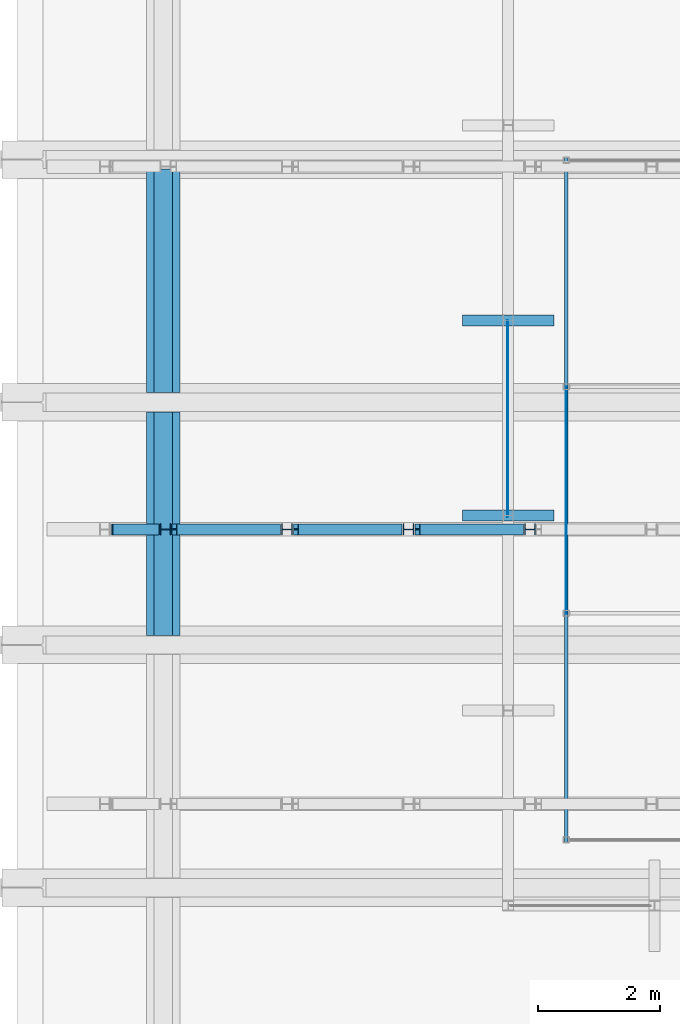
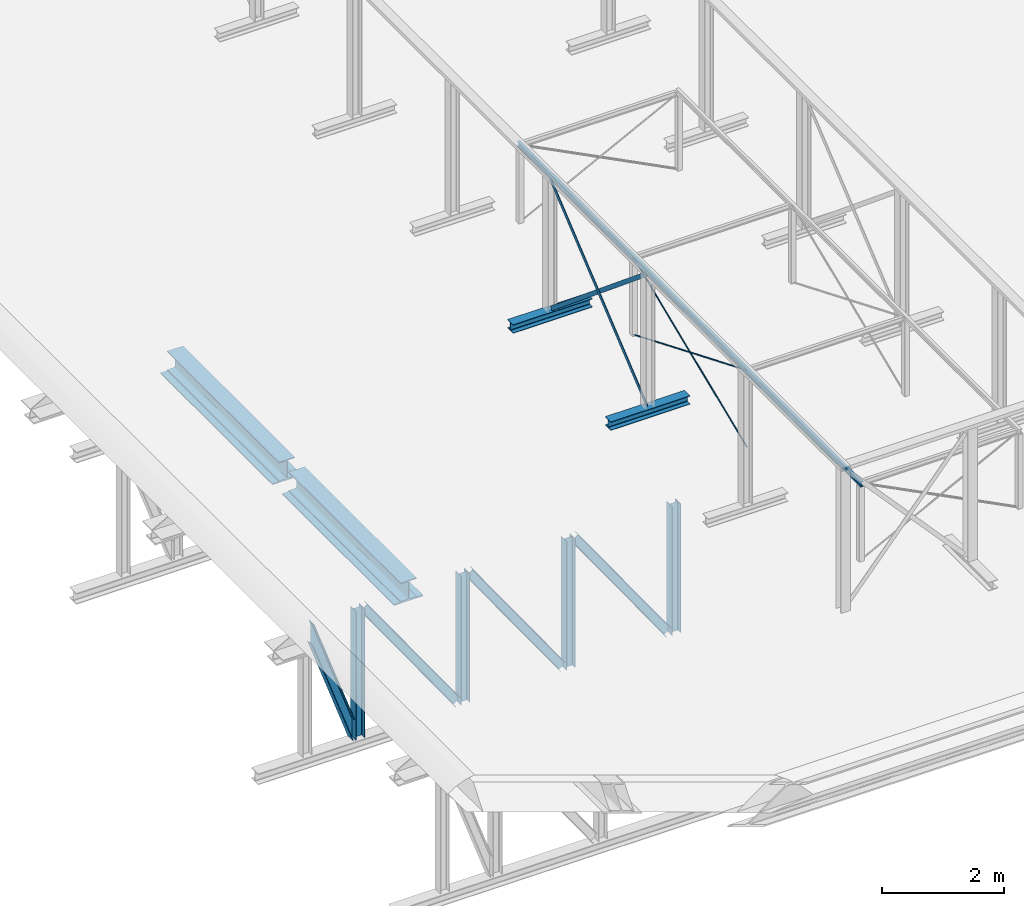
# One storey, part 10 of 50: 17 beams.
"""IFC2X3 building model written with IfcOpenShell, lengths in millimetres."""

from ifc_helpers import new_model, entity, si_unit, converted_unit, derived_unit, direction, frame, frame_2d, origin, origin_2d_with_axis, place, context, subcontext, project, spatial, polyline, circle_curve, parameter, trimmed, segment, composite_curve, rectangle, circle, i_section, outline, extrude, clip, halfspace, source, transform, mapped, material, material_list, type_object, type_shapes, element, save


model = new_model("IFC2X3")

# Units and contexts
model_context = context("Model", 3, precision=0.01, world=origin(), true_north=direction((6.12303176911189e-17, 1.0)))
body_context = subcontext(model_context, "Body", "Model", "MODEL_VIEW")
ifc_project = project(units=[si_unit("LENGTHUNIT", "METRE", prefix="MILLI"), si_unit("AREAUNIT", "SQUARE_METRE", prefix="MILLI"), si_unit("VOLUMEUNIT", "CUBIC_METRE"), converted_unit("PLANEANGLEUNIT", "DEGREE", entity("IfcRatioMeasure", 0.0174532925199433), si_unit("PLANEANGLEUNIT", "RADIAN"), dimensions=[0, 0, 0, 0, 0, 0, 0]), si_unit("MASSUNIT", "GRAM", prefix="KILO"), derived_unit("MASSDENSITYUNIT", [(si_unit("MASSUNIT", "GRAM", prefix="KILO"), 1), (si_unit("LENGTHUNIT", "METRE"), -3)]), derived_unit("MOMENTOFINERTIAUNIT", [(si_unit("LENGTHUNIT", "METRE"), 4)]), si_unit("TIMEUNIT", "SECOND"), si_unit("FREQUENCYUNIT", "HERTZ"), si_unit("THERMODYNAMICTEMPERATUREUNIT", "DEGREE_CELSIUS"), derived_unit("THERMALTRANSMITTANCEUNIT", [(si_unit("MASSUNIT", "GRAM", prefix="KILO"), 1), (si_unit("THERMODYNAMICTEMPERATUREUNIT", "KELVIN"), -1), (si_unit("TIMEUNIT", "SECOND"), -3)]), derived_unit("VOLUMETRICFLOWRATEUNIT", [(si_unit("LENGTHUNIT", "METRE"), 3), (si_unit("TIMEUNIT", "SECOND"), -1)]), si_unit("ELECTRICCURRENTUNIT", "AMPERE"), si_unit("ELECTRICVOLTAGEUNIT", "VOLT"), si_unit("POWERUNIT", "WATT"), si_unit("FORCEUNIT", "NEWTON", prefix="KILO"), si_unit("ILLUMINANCEUNIT", "LUX"), si_unit("LUMINOUSFLUXUNIT", "LUMEN"), si_unit("LUMINOUSINTENSITYUNIT", "CANDELA"), derived_unit("USERDEFINED", [(si_unit("MASSUNIT", "GRAM", prefix="KILO"), -1), (si_unit("LENGTHUNIT", "METRE"), -2), (si_unit("TIMEUNIT", "SECOND"), 3), (si_unit("LUMINOUSFLUXUNIT", "LUMEN"), 1)]), derived_unit("LINEARVELOCITYUNIT", [(si_unit("LENGTHUNIT", "METRE"), 1), (si_unit("TIMEUNIT", "SECOND"), -1)]), si_unit("PRESSUREUNIT", "PASCAL"), derived_unit("USERDEFINED", [(si_unit("LENGTHUNIT", "METRE"), -2), (si_unit("MASSUNIT", "GRAM", prefix="KILO"), 1), (si_unit("TIMEUNIT", "SECOND"), -2)]), derived_unit("LINEARFORCEUNIT", [(si_unit("MASSUNIT", "GRAM", prefix="KILO"), 1), (si_unit("LENGTHUNIT", "METRE"), 1), (si_unit("TIMEUNIT", "SECOND"), -2), (si_unit("LENGTHUNIT", "METRE"), -1)]), derived_unit("PLANARFORCEUNIT", [(si_unit("MASSUNIT", "GRAM", prefix="KILO"), 1), (si_unit("LENGTHUNIT", "METRE"), 1), (si_unit("TIMEUNIT", "SECOND"), -2), (si_unit("LENGTHUNIT", "METRE"), -2)])], contexts=[model_context])

# Site, building, storey
site_placement = place(None, origin())
site = spatial("IfcSite", under=ifc_project, at=site_placement, Name="Theater aan de Parade", CompositionType="ELEMENT")
building_placement = place(site_placement, origin())
building = spatial("IfcBuilding", under=site, at=building_placement, Name="Theater aan de Parade", CompositionType="ELEMENT")
storey_placement = place(building_placement, frame((0.0, 0.0, 15820.0)))
storey = spatial("IfcBuildingStorey", under=building, at=storey_placement, Name="04 vierde verdieping", CompositionType="ELEMENT", Elevation=15820.0)

# Beams
ifc_material_1 = material(Name="00_PBT_MAT_staal_S355")
beam_type_1 = type_object("IfcBeamType", Name="28_PBT_SF_staal_H-profiel:S355_HE180A", PredefinedType="NOTDEFINED")
beam_1_placement = place(storey_placement, frame((18135.8569884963, 23568.2922985, -4340.0), z_axis=(1.0, 0.0, 0.0), x_axis=(0.0, 0.0, 1.0)))
element("IfcBeam", 1, at=beam_1_placement, inside=storey, type_object=beam_type_1, material=ifc_material_1, Name="28_PBT_SF_staal_H-profiel:S355_HE180A", ObjectType="28_PBT_SF_staal_H-profiel:S355_HE180A", context=body_context, shape_type="SweptSolid", body=[
    extrude(i_section(OverallWidth=179.999999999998, OverallDepth=171.0, WebThickness=6.00000000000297, FlangeThickness=9.49999999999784, FilletRadius=15.0000000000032, at=frame_2d((2.16715534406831e-12, 2.16715534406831e-12), x_axis=(0.0, 1.0))), frame((122.7, 0.0, 0.0), z_axis=(1.0, 0.0, 0.0), x_axis=(0.0, 0.0, -1.0)), (0.0, 0.0, 1.0), 2574.60000000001),
])
beam_2_placement = place(storey_placement, frame((20127.8569884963, 23568.2922984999, -4340.0), z_axis=(1.0, 0.0, 0.0), x_axis=(0.0, 0.0, 1.0)))
element("IfcBeam", 2, at=beam_2_placement, inside=storey, type_object=beam_type_1, material=ifc_material_1, Name="28_PBT_SF_staal_H-profiel:S355_HE180A", ObjectType="28_PBT_SF_staal_H-profiel:S355_HE180A", context=body_context, shape_type="SweptSolid", body=[
    extrude(i_section(OverallWidth=179.999999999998, OverallDepth=171.0, WebThickness=6.00000000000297, FlangeThickness=9.49999999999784, FilletRadius=15.0000000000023, at=frame_2d((-2.16715534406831e-12, -2.16715534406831e-12), x_axis=(0.0, 1.0))), frame((122.700000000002, 0.0, 0.0), z_axis=(1.0, 0.0, 0.0), x_axis=(0.0, 0.0, -1.0)), (0.0, 0.0, 1.0), 2574.60000000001),
])
beam_3_placement = place(storey_placement, frame((22119.8569884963, 23568.2922984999, -4340.0), z_axis=(1.0, 0.0, 0.0), x_axis=(0.0, 0.0, 1.0)))
element("IfcBeam", 3, at=beam_3_placement, inside=storey, type_object=beam_type_1, material=ifc_material_1, Name="28_PBT_SF_staal_H-profiel:S355_HE180A", ObjectType="28_PBT_SF_staal_H-profiel:S355_HE180A", context=body_context, shape_type="SweptSolid", body=[
    extrude(i_section(OverallWidth=179.999999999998, OverallDepth=171.0, WebThickness=6.00000000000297, FlangeThickness=9.49999999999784, FilletRadius=15.0000000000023, at=frame_2d((2.16715534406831e-12, -6.49436060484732e-12), x_axis=(0.0, 1.0))), frame((122.699999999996, 0.0, 0.0), z_axis=(1.0, 0.0, 0.0), x_axis=(0.0, 0.0, -1.0)), (0.0, 0.0, 1.0), 2574.60000000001),
])
beam_4_placement = place(storey_placement, frame((24111.8569884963, 23568.2922984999, -4340.0), z_axis=(1.0, 0.0, 0.0), x_axis=(0.0, 0.0, 1.0)))
element("IfcBeam", 4, at=beam_4_placement, inside=storey, type_object=beam_type_1, material=ifc_material_1, Name="28_PBT_SF_staal_H-profiel:S355_HE180A", ObjectType="28_PBT_SF_staal_H-profiel:S355_HE180A", context=body_context, shape_type="SweptSolid", body=[
    extrude(i_section(OverallWidth=179.999999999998, OverallDepth=171.0, WebThickness=6.00000000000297, FlangeThickness=9.49999999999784, FilletRadius=15.0000000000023, at=frame_2d((2.16715534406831e-12, -2.16715534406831e-12), x_axis=(0.0, 1.0))), frame((122.7, 0.0, 0.0), z_axis=(1.0, 0.0, 0.0), x_axis=(0.0, 0.0, -1.0)), (0.0, 0.0, 1.0), 2574.60000000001),
])
beam_5_placement = place(storey_placement, frame((17139.8569884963, 23568.2922985, -1520.0), z_axis=(0.942916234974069, 0.0, 0.33302998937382), x_axis=(0.33302998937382, 0.0, -0.942916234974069)))
element("IfcBeam", 5, at=beam_5_placement, inside=storey, type_object=beam_type_1, material=ifc_material_1, Name="28_PBT_SF_staal_H-profiel:S355_HE180A", ObjectType="28_PBT_SF_staal_H-profiel:S355_HE180A", context=body_context, shape_type="Clipping", body=[
    clip(clip(extrude(outline(composite_curve([segment(polyline([(76.0, -90.0), (85.5000000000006, -90.0)]), True, "CONTINUOUS"), segment(polyline([(85.5000000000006, -90.0), (85.4999999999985, 90.0)]), True, "CONTINUOUS"), segment(polyline([(85.5000000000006, 90.0), (76.0, 90.0)]), True, "CONTINUOUS"), segment(polyline([(76.0, 90.0), (76.0, 18.0)]), True, "CONTINUOUS"), segment(trimmed(circle_curve(frame_2d((61.0, 18.0), x_axis=(1.0, 0.0)), 14.9999999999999), [parameter(270.0)], [parameter(0.0)], True, "PARAMETER"), False, "CONTINUOUS"), segment(polyline([(61.0, 3.0), (-61.0, 3.0)]), True, "CONTINUOUS"), segment(trimmed(circle_curve(frame_2d((-61.0, 18.0), x_axis=(0.0, -1.0)), 15.0000000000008), [parameter(270.0)], [parameter(0.0)], True, "PARAMETER"), False, "CONTINUOUS"), segment(polyline([(-76.0, 18.0), (-76.0, 90.0)]), True, "CONTINUOUS"), segment(polyline([(-76.0, 90.0), (-85.4999999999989, 90.0)]), True, "CONTINUOUS"), segment(polyline([(-85.4999999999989, 90.0), (-85.4999999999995, -90.0)]), True, "CONTINUOUS"), segment(polyline([(-85.4999999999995, -90.0), (-76.0, -90.0)]), True, "CONTINUOUS"), segment(polyline([(-76.0, -90.0), (-76.0, -18.0)]), True, "CONTINUOUS"), segment(trimmed(circle_curve(frame_2d((-61.0, -18.0), x_axis=(-1.0, 0.0)), 15.0), [parameter(270.0)], [parameter(0.0)], True, "PARAMETER"), False, "CONTINUOUS"), segment(polyline([(-61.0, -3.0), (61.0, -3.0)]), True, "CONTINUOUS"), segment(trimmed(circle_curve(frame_2d((61.0, -18.0), x_axis=(0.0, 1.0)), 15.000000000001), [parameter(270.0)], [parameter(0.0)], True, "PARAMETER"), False, "CONTINUOUS"), segment(polyline([(76.0, -18.0), (76.0, -90.0)]), True, "CONTINUOUS")], self_intersect=False)), frame((159.557227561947, 0.0, 0.0), z_axis=(1.0, 0.0, 0.0), x_axis=(0.0, 0.0, -1.0)), (0.0, 0.0, 1.0), 2671.60719691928), halfspace(frame((2597.32094917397, 110.0, -805.464727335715), z_axis=(-0.33302998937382, 0.0, -0.942916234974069), x_axis=(-0.942916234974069, 0.0, 0.33302998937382)), False)), halfspace(frame((2858.74949083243, -110.0, -65.2754828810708), z_axis=(0.33302998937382, 0.0, 0.942916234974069), x_axis=(-0.942916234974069, 0.0, 0.33302998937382)), False)),
])
beam_6_placement = place(storey_placement, frame((18135.8569884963, 23568.2922985, -1520.0), z_axis=(0.816775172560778, 0.0, 0.576956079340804), x_axis=(0.576956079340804, 0.0, -0.816775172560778)))
element("IfcBeam", 6, at=beam_6_placement, inside=storey, type_object=beam_type_1, material=ifc_material_1, Name="28_PBT_SF_staal_H-profiel:S355_HE180A", ObjectType="28_PBT_SF_staal_H-profiel:S355_HE180A", context=body_context, shape_type="Clipping", body=[
    clip(clip(extrude(outline(composite_curve([segment(polyline([(76.0, -90.0), (85.5000000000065, -90.0)]), True, "CONTINUOUS"), segment(polyline([(85.5000000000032, -90.0), (85.5000000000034, 90.0)]), True, "CONTINUOUS"), segment(polyline([(85.5000000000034, 90.0), (76.0, 90.0)]), True, "CONTINUOUS"), segment(polyline([(76.0, 90.0), (76.0, 18.0)]), True, "CONTINUOUS"), segment(trimmed(circle_curve(frame_2d((61.0, 18.0), x_axis=(1.0, 0.0)), 15.0000000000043), [parameter(270.000000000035)], [parameter(0.0)], True, "PARAMETER"), False, "CONTINUOUS"), segment(polyline([(61.0, 3.0), (-61.0, 3.0)]), True, "CONTINUOUS"), segment(trimmed(circle_curve(frame_2d((-61.0, 18.0), x_axis=(0.0, -1.0)), 15.0000000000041), [parameter(270.000000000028)], [parameter(0.0)], True, "PARAMETER"), False, "CONTINUOUS"), segment(polyline([(-76.0, 18.0), (-76.0, 90.0)]), True, "CONTINUOUS"), segment(polyline([(-76.0, 90.0), (-85.4999999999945, 90.0)]), True, "CONTINUOUS"), segment(polyline([(-85.4999999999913, 90.0), (-85.4999999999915, -90.0)]), True, "CONTINUOUS"), segment(polyline([(-85.4999999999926, -90.0), (-76.0, -90.0)]), True, "CONTINUOUS"), segment(polyline([(-76.0, -90.0), (-76.0, -18.0)]), True, "CONTINUOUS"), segment(trimmed(circle_curve(frame_2d((-61.0, -18.0), x_axis=(-1.0, 0.0)), 15.0000000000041), [parameter(270.000000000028)], [parameter(0.0)], True, "PARAMETER"), False, "CONTINUOUS"), segment(polyline([(-61.0, -3.0), (61.0, -3.0)]), True, "CONTINUOUS"), segment(trimmed(circle_curve(frame_2d((61.0, -18.0), x_axis=(0.0, 1.0)), 15.0000000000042), [parameter(270.000000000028)], [parameter(0.0)], True, "PARAMETER"), False, "CONTINUOUS"), segment(polyline([(76.0, -18.0), (76.0, -90.0)]), True, "CONTINUOUS")], self_intersect=False)), frame((207.771728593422, 0.0, 0.0), z_axis=(1.0, 0.0, 0.0), x_axis=(0.0, 0.0, -1.0)), (0.0, 0.0, 1.0), 3037.0590394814), halfspace(frame((2280.29204276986, 110.0, -1481.5929736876), z_axis=(-0.576956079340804, 0.0, -0.816775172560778), x_axis=(-0.816775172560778, 0.0, 0.576956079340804)), False)), halfspace(frame((3307.85082007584, -110.0, -26.9163913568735), z_axis=(0.576956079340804, 0.0, 0.816775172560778), x_axis=(-0.816775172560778, 0.0, 0.576956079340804)), False)),
])
beam_7_placement = place(storey_placement, frame((20127.8569884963, 23568.2922984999, -1520.0), z_axis=(0.816775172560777, 0.0, 0.576956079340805), x_axis=(0.576956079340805, 0.0, -0.816775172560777)))
element("IfcBeam", 7, at=beam_7_placement, inside=storey, type_object=beam_type_1, material=ifc_material_1, Name="28_PBT_SF_staal_H-profiel:S355_HE180A", ObjectType="28_PBT_SF_staal_H-profiel:S355_HE180A", context=body_context, shape_type="Clipping", body=[
    clip(clip(extrude(outline(composite_curve([segment(polyline([(76.0, -90.0), (85.5000000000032, -90.0)]), True, "CONTINUOUS"), segment(polyline([(85.5, -90.0), (85.5000000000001, 90.0)]), True, "CONTINUOUS"), segment(polyline([(85.5000000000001, 90.0), (76.0, 90.0)]), True, "CONTINUOUS"), segment(polyline([(76.0, 90.0), (76.0, 18.0)]), True, "CONTINUOUS"), segment(trimmed(circle_curve(frame_2d((61.0, 18.0), x_axis=(1.0, 0.0)), 14.9999999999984), [parameter(269.999999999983)], [parameter(0.0)], True, "PARAMETER"), False, "CONTINUOUS"), segment(polyline([(61.0, 3.0), (-61.0, 3.0)]), True, "CONTINUOUS"), segment(trimmed(circle_curve(frame_2d((-61.0, 18.0), x_axis=(0.0, -1.0)), 14.9999999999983), [parameter(269.999999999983)], [parameter(0.0)], True, "PARAMETER"), False, "CONTINUOUS"), segment(polyline([(-76.0, 18.0), (-76.0, 90.0)]), True, "CONTINUOUS"), segment(polyline([(-76.0, 90.0), (-85.4999999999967, 90.0)]), True, "CONTINUOUS"), segment(polyline([(-85.4999999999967, 90.0), (-85.4999999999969, -90.0)]), True, "CONTINUOUS"), segment(polyline([(-85.4999999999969, -90.0), (-76.0, -90.0)]), True, "CONTINUOUS"), segment(polyline([(-76.0, -90.0), (-76.0, -18.0)]), True, "CONTINUOUS"), segment(trimmed(circle_curve(frame_2d((-61.0, -18.0), x_axis=(-1.0, 0.0)), 14.9999999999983), [parameter(269.999999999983)], [parameter(0.0)], True, "PARAMETER"), False, "CONTINUOUS"), segment(polyline([(-61.0, -3.0), (61.0, -3.0)]), True, "CONTINUOUS"), segment(trimmed(circle_curve(frame_2d((61.0, -18.0), x_axis=(0.0, 1.0)), 14.9999999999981), [parameter(269.999999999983)], [parameter(0.0)], True, "PARAMETER"), False, "CONTINUOUS"), segment(polyline([(76.0, -18.0), (76.0, -90.0)]), True, "CONTINUOUS")], self_intersect=False)), frame((207.771728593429, 0.0, 0.0), z_axis=(1.0, 0.0, 0.0), x_axis=(0.0, 0.0, -1.0)), (0.0, 0.0, 1.0), 3037.0590394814), halfspace(frame((2280.29204276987, 110.0, -1481.59297368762), z_axis=(-0.576956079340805, 0.0, -0.816775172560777), x_axis=(-0.816775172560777, 0.0, 0.576956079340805)), False)), halfspace(frame((3307.85082007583, -110.0, -26.9163913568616), z_axis=(0.576956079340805, 0.0, 0.816775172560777), x_axis=(-0.816775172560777, 0.0, 0.576956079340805)), False)),
])
beam_8_placement = place(storey_placement, frame((22119.8569884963, 23568.2922984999, -1520.0), z_axis=(0.816775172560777, 0.0, 0.576956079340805), x_axis=(0.576956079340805, 0.0, -0.816775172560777)))
element("IfcBeam", 8, at=beam_8_placement, inside=storey, type_object=beam_type_1, material=ifc_material_1, Name="28_PBT_SF_staal_H-profiel:S355_HE180A", ObjectType="28_PBT_SF_staal_H-profiel:S355_HE180A", context=body_context, shape_type="Clipping", body=[
    clip(clip(extrude(outline(composite_curve([segment(polyline([(76.0, -90.0), (85.5000000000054, -90.0)]), True, "CONTINUOUS"), segment(polyline([(85.5, -90.0), (85.5000000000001, 90.0)]), True, "CONTINUOUS"), segment(polyline([(85.5000000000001, 90.0), (76.0, 90.0)]), True, "CONTINUOUS"), segment(polyline([(76.0, 90.0), (76.0, 18.0)]), True, "CONTINUOUS"), segment(trimmed(circle_curve(frame_2d((61.0, 18.0), x_axis=(1.0, 0.0)), 14.9999999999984), [parameter(269.999999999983)], [parameter(0.0)], True, "PARAMETER"), False, "CONTINUOUS"), segment(polyline([(61.0, 3.0), (-61.0, 3.0)]), True, "CONTINUOUS"), segment(trimmed(circle_curve(frame_2d((-61.0, 18.0), x_axis=(0.0, -1.0)), 14.9999999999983), [parameter(269.999999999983)], [parameter(0.0)], True, "PARAMETER"), False, "CONTINUOUS"), segment(polyline([(-76.0, 18.0), (-76.0, 90.0)]), True, "CONTINUOUS"), segment(polyline([(-76.0, 90.0), (-85.4999999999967, 90.0)]), True, "CONTINUOUS"), segment(polyline([(-85.4999999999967, 90.0), (-85.4999999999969, -90.0)]), True, "CONTINUOUS"), segment(polyline([(-85.4999999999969, -90.0), (-76.0, -90.0)]), True, "CONTINUOUS"), segment(polyline([(-76.0, -90.0), (-76.0, -18.0)]), True, "CONTINUOUS"), segment(trimmed(circle_curve(frame_2d((-61.0, -18.0), x_axis=(-1.0, 0.0)), 14.9999999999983), [parameter(269.999999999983)], [parameter(0.0)], True, "PARAMETER"), False, "CONTINUOUS"), segment(polyline([(-61.0, -3.0), (61.0, -3.0)]), True, "CONTINUOUS"), segment(trimmed(circle_curve(frame_2d((61.0, -18.0), x_axis=(0.0, 1.0)), 14.9999999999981), [parameter(269.999999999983)], [parameter(0.0)], True, "PARAMETER"), False, "CONTINUOUS"), segment(polyline([(76.0, -18.0), (76.0, -90.0)]), True, "CONTINUOUS")], self_intersect=False)), frame((207.771728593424, 0.0, 0.0), z_axis=(1.0, 0.0, 0.0), x_axis=(0.0, 0.0, -1.0)), (0.0, 0.0, 1.0), 3037.0590394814), halfspace(frame((2280.29204276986, 110.0, -1481.59297368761), z_axis=(-0.576956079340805, 0.0, -0.816775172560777), x_axis=(-0.816775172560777, 0.0, 0.576956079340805)), False)), halfspace(frame((3307.85082007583, -110.0, -26.9163913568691), z_axis=(0.576956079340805, 0.0, 0.816775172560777), x_axis=(-0.816775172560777, 0.0, 0.576956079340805)), False)),
])
beam_9_placement = place(storey_placement, frame((24503.8569986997, 23798.8337248, 0.0), z_axis=(0.0, 0.0, 1.0), x_axis=(-1.0, 0.0, 0.0)))
element("IfcBeam", 9, at=beam_9_placement, inside=storey, type_object=beam_type_1, material=ifc_material_1, Name="28_PBT_SF_staal_H-profiel:S355_HE180A", ObjectType="28_PBT_SF_staal_H-profiel:S355_HE180A", context=body_context, shape_type="SweptSolid", body=[
    extrude(outline(composite_curve([segment(polyline([(76.0, -90.0), (85.5000000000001, -90.0)]), True, "CONTINUOUS"), segment(polyline([(85.5000000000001, -90.0), (85.5000000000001, 90.0)]), True, "CONTINUOUS"), segment(polyline([(85.5000000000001, 90.0), (76.0, 90.0)]), True, "CONTINUOUS"), segment(polyline([(76.0, 90.0), (76.0, 18.0)]), True, "CONTINUOUS"), segment(trimmed(circle_curve(frame_2d((61.0, 18.0), x_axis=(1.0, 0.0)), 15.0000000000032), [parameter(270.000000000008)], [parameter(0.0)], True, "PARAMETER"), False, "CONTINUOUS"), segment(polyline([(61.0, 3.0), (-61.0, 3.0)]), True, "CONTINUOUS"), segment(trimmed(circle_curve(frame_2d((-61.0, 18.0), x_axis=(0.0, -1.0)), 15.0000000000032), [parameter(270.000000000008)], [parameter(0.0)], True, "PARAMETER"), False, "CONTINUOUS"), segment(polyline([(-76.0, 18.0), (-76.0, 90.0)]), True, "CONTINUOUS"), segment(polyline([(-76.0, 90.0), (-85.5000000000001, 90.0)]), True, "CONTINUOUS"), segment(polyline([(-85.5000000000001, 90.0), (-85.5000000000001, -90.0)]), True, "CONTINUOUS"), segment(polyline([(-85.4999999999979, -90.0), (-76.0, -90.0)]), True, "CONTINUOUS"), segment(polyline([(-76.0, -90.0), (-76.0, -18.0)]), True, "CONTINUOUS"), segment(trimmed(circle_curve(frame_2d((-61.0, -18.0), x_axis=(-1.0, 0.0)), 15.0000000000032), [parameter(270.000000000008)], [parameter(0.0)], True, "PARAMETER"), False, "CONTINUOUS"), segment(polyline([(-61.0, -3.0), (61.0, -3.0)]), True, "CONTINUOUS"), segment(trimmed(circle_curve(frame_2d((61.0, -18.0), x_axis=(0.0, 1.0)), 15.0000000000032), [parameter(270.000000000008)], [parameter(0.0)], True, "PARAMETER"), False, "CONTINUOUS"), segment(polyline([(76.0, -18.0), (76.0, -90.0)]), True, "CONTINUOUS")], self_intersect=False)), frame((0.0, 0.0, 184.499999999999), z_axis=(1.0, 0.0, 0.0), x_axis=(0.0, 0.0, -1.0)), (0.0, 0.0, 1.0), 1500.00000000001),
])
beam_10_placement = place(storey_placement, frame((24503.8569986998, 26998.8337248, 0.0), z_axis=(0.0, 0.0, 1.0), x_axis=(-1.0, 0.0, 0.0)))
element("IfcBeam", 10, at=beam_10_placement, inside=storey, type_object=beam_type_1, material=ifc_material_1, Name="28_PBT_SF_staal_H-profiel:S355_HE180A", ObjectType="28_PBT_SF_staal_H-profiel:S355_HE180A", context=body_context, shape_type="SweptSolid", body=[
    extrude(outline(composite_curve([segment(polyline([(76.0, -90.0), (85.5000000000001, -90.0)]), True, "CONTINUOUS"), segment(polyline([(85.5000000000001, -90.0), (85.5000000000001, 90.0)]), True, "CONTINUOUS"), segment(polyline([(85.5000000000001, 90.0), (76.0, 90.0)]), True, "CONTINUOUS"), segment(polyline([(76.0, 90.0), (76.0, 18.0)]), True, "CONTINUOUS"), segment(trimmed(circle_curve(frame_2d((61.0, 18.0), x_axis=(1.0, 0.0)), 15.0000000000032), [parameter(270.000000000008)], [parameter(0.0)], True, "PARAMETER"), False, "CONTINUOUS"), segment(polyline([(61.0, 3.0), (-61.0, 3.0)]), True, "CONTINUOUS"), segment(trimmed(circle_curve(frame_2d((-61.0, 18.0), x_axis=(0.0, -1.0)), 15.0000000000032), [parameter(270.000000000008)], [parameter(0.0)], True, "PARAMETER"), False, "CONTINUOUS"), segment(polyline([(-76.0, 18.0), (-76.0, 90.0)]), True, "CONTINUOUS"), segment(polyline([(-76.0, 90.0), (-85.5000000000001, 90.0)]), True, "CONTINUOUS"), segment(polyline([(-85.5000000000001, 90.0), (-85.5000000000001, -90.0)]), True, "CONTINUOUS"), segment(polyline([(-85.4999999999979, -90.0), (-76.0, -90.0)]), True, "CONTINUOUS"), segment(polyline([(-76.0, -90.0), (-76.0, -18.0)]), True, "CONTINUOUS"), segment(trimmed(circle_curve(frame_2d((-61.0, -18.0), x_axis=(-1.0, 0.0)), 15.0000000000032), [parameter(270.000000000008)], [parameter(0.0)], True, "PARAMETER"), False, "CONTINUOUS"), segment(polyline([(-61.0, -3.0), (61.0, -3.0)]), True, "CONTINUOUS"), segment(trimmed(circle_curve(frame_2d((61.0, -18.0), x_axis=(0.0, 1.0)), 15.0000000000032), [parameter(270.000000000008)], [parameter(0.0)], True, "PARAMETER"), False, "CONTINUOUS"), segment(polyline([(76.0, -18.0), (76.0, -90.0)]), True, "CONTINUOUS")], self_intersect=False)), frame((0.0, 0.0, 184.499999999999), z_axis=(1.0, 0.0, 0.0), x_axis=(0.0, 0.0, -1.0)), (0.0, 0.0, 1.0), 1500.00000000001),
])
ifc_material_2 = material(Name="00_PBT_MAT_Lucht")
ifc_material_list_1 = material_list([ifc_material_2, ifc_material_1])
beam_type_2 = type_object("IfcBeamType", Name="28_PBT_SF_staal_H-profiel_met_onderplaat (void):S355_HE400A + onderplaat d=20", PredefinedType="BEAM", material=ifc_material_list_1)
shared_shape_1 = source(origin(), body_context, "Body", "SweptSolid", [
    extrude(i_section(OverallWidth=299.999999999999, OverallDepth=390.0, WebThickness=10.9999999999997, FlangeThickness=19.0, FilletRadius=27.0000000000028, at=frame_2d((-4.33431068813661e-12, -1.08002495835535e-12), x_axis=(1.0, 0.0))), frame((18098.3570025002, 25811.9774014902, 15585.0), z_axis=(0.0, 1.0, 0.0), x_axis=(-1.0, 0.0, 0.0)), (0.0, 0.0, 1.0), 3664.50000000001),
    extrude(rectangle(XDim=19.9999999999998, YDim=550.000000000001, at=frame_2d((2.1600499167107e-12, -1.08268949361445e-12), x_axis=(0.0, 1.0))), frame((18098.3570025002, 25811.9774014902, 15380.0), z_axis=(0.0, 1.0, 0.0), x_axis=(-1.0, 0.0, 0.0)), (0.0, 0.0, 1.0), 3664.50000000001),
])
type_shapes(beam_type_2, [shared_shape_1])
beam_11_placement = place(storey_placement, frame((0.0, 0.0, -15820.0)))
element("IfcBeam", 11, at=beam_11_placement, inside=storey, type_object=beam_type_2, material=ifc_material_1, Name="28_PBT_SF_staal_H-profiel_met_onderplaat (void):S355_HE400A + onderplaat d=20", ObjectType="28_PBT_SF_staal_H-profiel_met_onderplaat (void):S355_HE400A + onderplaat d=20", context=body_context, shape_type="MappedRepresentation", body=[
    mapped(shared_shape_1, transform((0.0, 0.0, 0.0), scale=1.0)),
])
ifc_material_list_2 = material_list([ifc_material_2, ifc_material_1])
beam_type_3 = type_object("IfcBeamType", Name="28_PBT_SF_staal_H-profiel_met_onderplaat (void):S355_HE400A + onderplaat d=20", PredefinedType="BEAM", material=ifc_material_list_2)
shared_shape_2 = source(origin(), body_context, "Body", "SweptSolid", [
    extrude(i_section(OverallWidth=299.999999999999, OverallDepth=390.0, WebThickness=10.9999999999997, FlangeThickness=19.0, FilletRadius=27.0000000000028, at=frame_2d((-2.17426077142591e-12, -1.08002495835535e-12), x_axis=(1.0, 0.0))), frame((18098.3570025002, 21831.9774014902, 15585.0), z_axis=(0.0, 1.0, 0.0), x_axis=(-1.0, 0.0, 0.0)), (0.0, 0.0, 1.0), 3664.50000000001),
    extrude(rectangle(XDim=19.9999999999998, YDim=550.000000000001, at=frame_2d((-1.08002495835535e-12, -1.08268949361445e-12), x_axis=(0.0, 1.0))), frame((18098.3570025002, 21831.9774014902, 15380.0), z_axis=(0.0, 1.0, 0.0), x_axis=(-1.0, 0.0, 0.0)), (0.0, 0.0, 1.0), 3664.50000000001),
])
type_shapes(beam_type_3, [shared_shape_2])
beam_12_placement = place(storey_placement, frame((0.0, 0.0, -15820.0)))
element("IfcBeam", 12, at=beam_12_placement, inside=storey, type_object=beam_type_3, material=ifc_material_1, Name="28_PBT_SF_staal_H-profiel_met_onderplaat (void):S355_HE400A + onderplaat d=20", ObjectType="28_PBT_SF_staal_H-profiel_met_onderplaat (void):S355_HE400A + onderplaat d=20", context=body_context, shape_type="MappedRepresentation", body=[
    mapped(shared_shape_2, transform((0.0, 0.0, 0.0), scale=1.0)),
])
beam_type_4 = type_object("IfcBeamType", Name="28_PBT_SF_staal_IPE-profiel:S355_IPE100", PredefinedType="NOTDEFINED")
beam_13_placement = place(storey_placement, frame((24703.8569986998, 18428.8337248, 1680.0), z_axis=(0.0, 0.0, 1.0), x_axis=(0.0, 1.0, 0.0)))
element("IfcBeam", 13, at=beam_13_placement, inside=storey, type_object=beam_type_4, material=ifc_material_1, Name="28_PBT_SF_staal_IPE-profiel:S355_IPE100", ObjectType="28_PBT_SF_staal_IPE-profiel:S355_IPE100", context=body_context, shape_type="SweptSolid", body=[
    extrude(i_section(OverallWidth=55.0000000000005, OverallDepth=99.9999999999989, WebThickness=4.1000000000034, FlangeThickness=5.6999999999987, FilletRadius=6.99999999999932, at=frame_2d((0.0, -2.16715534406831e-12), x_axis=(0.0, 1.0))), frame((0.0, 0.0, -50.0), z_axis=(1.0, 0.0, 0.0), x_axis=(0.0, 0.0, -1.0)), (0.0, 0.0, 1.0), 11245.0),
])
ifc_material_3 = material(Name="00_PBT_MAT_staal")
beam_type_5 = type_object("IfcBeamType", Name="28_PBT_SF_staal_strip:strip 8x80", PredefinedType="NOTDEFINED")
beam_14_placement = place(storey_placement, frame((23753.8569986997, 26951.9880445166, 308.759216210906), z_axis=(0.0, 0.637563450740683, 0.770397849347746), x_axis=(0.0, -0.770397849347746, 0.637563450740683)))
element("IfcBeam", 14, at=beam_14_placement, inside=storey, type_object=beam_type_5, material=ifc_material_3, Name="28_PBT_SF_staal_strip:strip 8x80", ObjectType="28_PBT_SF_staal_strip:strip 8x80", context=body_context, shape_type="SweptSolid", body=[
    extrude(rectangle(XDim=79.9999999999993, YDim=7.99999999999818, at=frame_2d((0.0, 4.33142410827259e-12), x_axis=(1.0, 0.0))), frame((0.0, 0.0, 0.0), z_axis=(1.0, 0.0, 0.0), x_axis=(0.0, 0.0, -1.0)), (0.0, 0.0, 1.0), 4040.00000000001),
])
beam_15_placement = place(storey_placement, frame((23745.8569986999, 23797.0432873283, 268.538412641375), z_axis=(0.0, -0.637559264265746, 0.770401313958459), x_axis=(0.0, 0.770401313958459, 0.637559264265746)))
element("IfcBeam", 15, at=beam_15_placement, inside=storey, type_object=beam_type_5, material=ifc_material_3, Name="28_PBT_SF_staal_strip:strip 8x80", ObjectType="28_PBT_SF_staal_strip:strip 8x80", context=body_context, shape_type="SweptSolid", body=[
    extrude(rectangle(XDim=79.9999999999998, YDim=8.00000000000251, at=origin_2d_with_axis()), frame((0.0, 0.0, 0.0), z_axis=(1.0, 0.0, 0.0), x_axis=(0.0, 0.0, -1.0)), (0.0, 0.0, 1.0), 4120.0),
])
beam_type_6 = type_object("IfcBeamType", Name="28_PBT_SF_staal_massief_rond:S355_D16", PredefinedType="NOTDEFINED")
beam_16_placement = place(storey_placement, frame((24703.8569986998, 25901.1256429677, 93.2539589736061), z_axis=(0.0, 0.382547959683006, 0.923935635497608), x_axis=(0.0, -0.923935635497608, 0.382547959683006)))
element("IfcBeam", 16, at=beam_16_placement, inside=storey, type_object=beam_type_6, material=ifc_material_1, Name="28_PBT_SF_staal_massief_rond:S355_D16", ObjectType="28_PBT_SF_staal_massief_rond:S355_D16", context=body_context, shape_type="SweptSolid", body=[
    extrude(circle(Radius=7.9999999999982, at=frame_2d((-5.86300609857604e-25, 2.00099905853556e-12), x_axis=(1.0, 0.0))), frame((0.0, 0.0, 0.0), z_axis=(1.0, 0.0, 0.0), x_axis=(0.0, 1.0, 0.0)), (0.0, 0.0, 1.0), 4020.0),
])
beam_17_placement = place(storey_placement, frame((24703.8569987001, 22194.8126164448, 90.3886649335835), z_axis=(0.0, -0.382564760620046, 0.923928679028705), x_axis=(0.0, 0.923928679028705, 0.382564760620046)))
element("IfcBeam", 17, at=beam_17_placement, inside=storey, type_object=beam_type_6, material=ifc_material_1, Name="28_PBT_SF_staal_massief_rond:S355_D16", ObjectType="28_PBT_SF_staal_massief_rond:S355_D16", context=body_context, shape_type="SweptSolid", body=[
    extrude(circle(Radius=7.99999999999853, at=frame_2d((-5.86300609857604e-25, 2.00098399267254e-12), x_axis=(1.0, 0.0))), frame((0.0, 0.0, 0.0), z_axis=(1.0, 0.0, 0.0), x_axis=(0.0, 1.0, 0.0)), (0.0, 0.0, 1.0), 4020.0),
])

save(model, "model.ifc")
